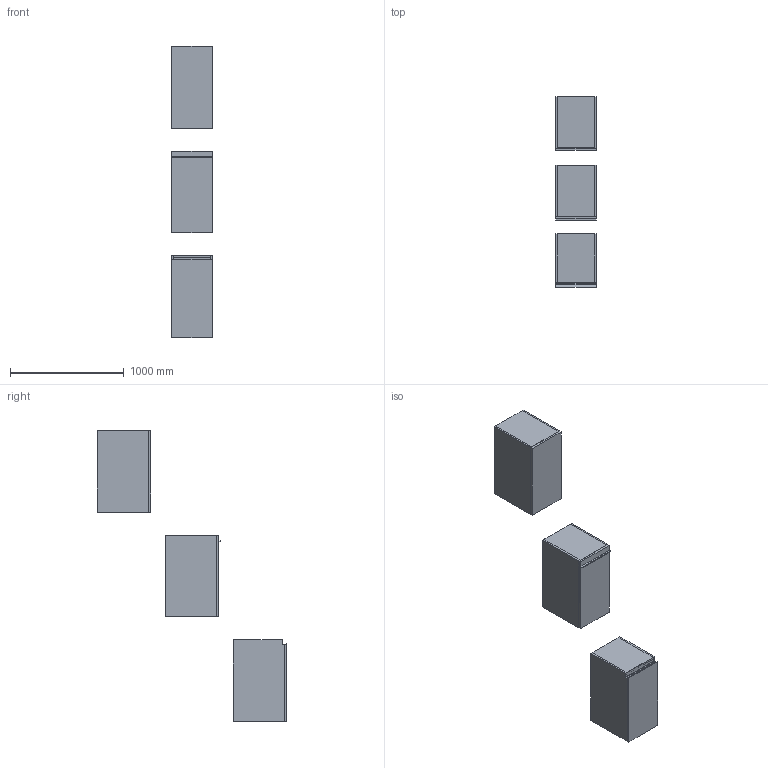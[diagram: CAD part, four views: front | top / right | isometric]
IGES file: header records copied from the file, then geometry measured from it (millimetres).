
Start section: Data from Parasolid IGES Translator 19.0.9, Copyright(c) 2006 Siemens PL M Software. All Rights Reserved.
Global section: file name: noorth-SI-H 72 D 47 W 36_8621.igs; native system: By Siemens PLM Incorporated; preprocessor: XPlus GENERIC/IGES 19.0.9; author: Noname; organization: Noname; date: 20200601.115916; units: metre
Bounding box: 360.01 x 1669.1 x 2560 mm (x, y, z)
Volume: 61462142.3 mm3; surface area: 9076079.9 mm2
Topology: 20 solids, 20 shells, 178 faces, 382 edges, 234 vertices
Faces by surface type: plane 134, extrusion 16, bspline 16, cylinder 12
